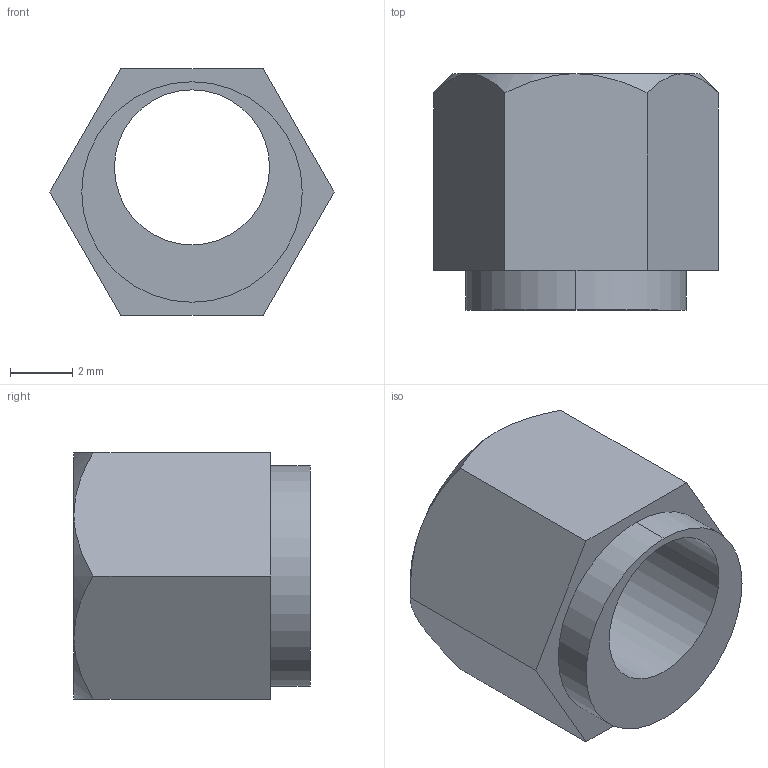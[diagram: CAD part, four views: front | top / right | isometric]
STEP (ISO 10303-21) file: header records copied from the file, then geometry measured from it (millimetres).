
FILE_DESCRIPTION((''),'2;1');
FILE_NAME('B18001-001','2013-07-22T',('Barton'),(''),'PRO/ENGINEER BY PARAMETRIC TECHNOLOGY CORPORATION, 2013150','PRO/ENGINEER BY PARAMETRIC TECHNOLOGY CORPORATION, 2013150','');
FILE_SCHEMA(('CONFIG_CONTROL_DESIGN'));
Length unit declared in the file: inch
Products named in the file (1): B18001-001
Bounding box: 9.17 x 7.62 x 7.94 mm (x, y, z)
Volume: 246.1 mm3; surface area: 388.9 mm2
Topology: 1 solids, 1 shells, 19 faces, 42 edges, 26 vertices
Faces by surface type: plane 9, cone 6, cylinder 4
Entity records: 643 total; most frequent: CARTESIAN_POINT 167, ORIENTED_EDGE 84, DIRECTION 82, EDGE_CURVE 42, AXIS2_PLACEMENT_3D 33, VERTEX_POINT 26, EDGE_LOOP 22, FACE_OUTER_BOUND 19
